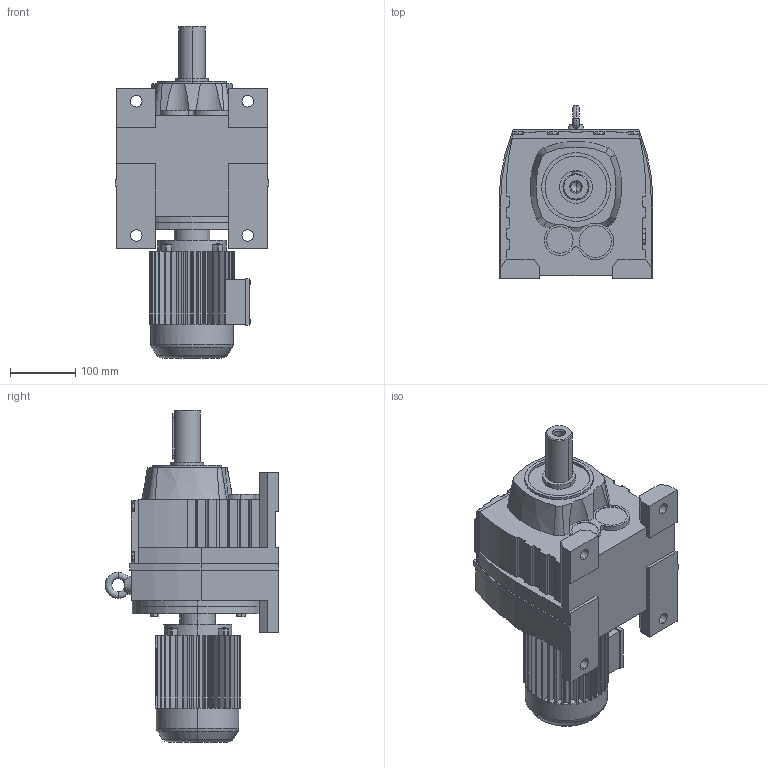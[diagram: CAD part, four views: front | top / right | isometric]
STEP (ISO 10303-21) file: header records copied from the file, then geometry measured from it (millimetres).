
FILE_DESCRIPTION(('Open CASCADE Model'),'2;1');
FILE_NAME('Open CASCADE Shape Model','2021-07-13T17:12:40',('Author'),( 'Open CASCADE'),'Open CASCADE STEP processor 6.3','Open CASCADE 6.3' ,'Unknown');
FILE_SCHEMA(('AUTOMOTIVE_DESIGN_CC2 { 1 2 10303 214 -1 1 5 4 }'));
Length unit declared in the file: millimetre
Products named in the file (3): 1_R77-Y63S; R37‵167_77.step; 萇儂_200_Y63S.step
Assembly tree (2 placements, depth 2):
  1_R77-Y63S
    R37‵167_77.step
    萇儂_200_Y63S.step
Bounding box: 235 x 265.5 x 507 mm (x, y, z)
Volume: 11273491.8 mm3; surface area: 587671 mm2
Topology: 2 solids, 2 shells, 749 faces, 1996 edges, 1289 vertices
Faces by surface type: plane 532, cylinder 187, cone 20, torus 10
Entity records: 52250 total; most frequent: CARTESIAN_POINT 14114, DIRECTION 6660, ORIENTED_EDGE 3988, PCURVE 3988, DEFINITIONAL_REPRESENTATION 3988, LINE 3741, VECTOR 3741, EDGE_CURVE 1994
